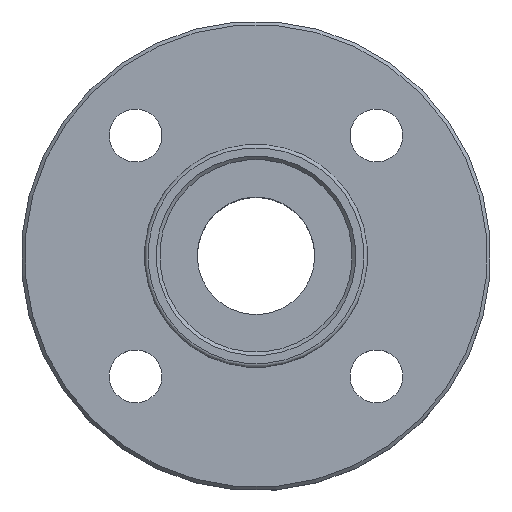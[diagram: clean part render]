
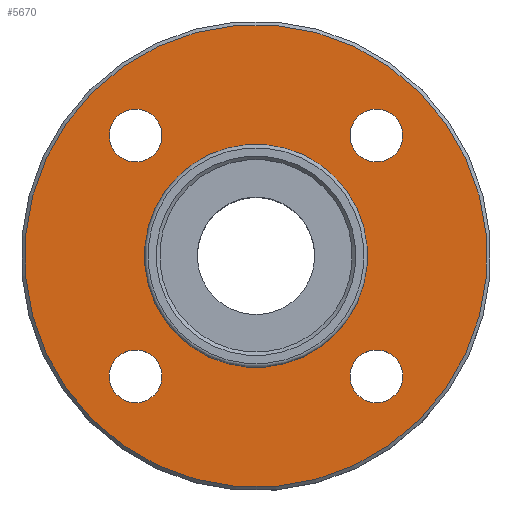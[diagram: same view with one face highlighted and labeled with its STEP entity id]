
A CAD part, top view. The second image highlights one B-rep face of the part: STEP entity #5670.
In plain terms, the highlighted planar face has unit normal (0, 0, 1).
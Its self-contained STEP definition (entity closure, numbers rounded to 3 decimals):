
#128=CIRCLE('',#6040,9.5);
#137=CIRCLE('',#6054,19.7);
#138=CIRCLE('',#6055,2.25);
#139=CIRCLE('',#6056,2.25);
#140=CIRCLE('',#6057,2.25);
#141=CIRCLE('',#6058,2.25);
#541=ORIENTED_EDGE('',*,*,#2162,.T.);
#542=ORIENTED_EDGE('',*,*,#2163,.F.);
#543=ORIENTED_EDGE('',*,*,#2164,.F.);
#544=ORIENTED_EDGE('',*,*,#2165,.F.);
#545=ORIENTED_EDGE('',*,*,#2166,.F.);
#546=ORIENTED_EDGE('',*,*,#2153,.T.);
#2153=EDGE_CURVE('',#2964,#2964,#128,.F.);
#2162=EDGE_CURVE('',#2973,#2973,#137,.T.);
#2163=EDGE_CURVE('',#2974,#2974,#138,.T.);
#2164=EDGE_CURVE('',#2975,#2975,#139,.T.);
#2165=EDGE_CURVE('',#2976,#2976,#140,.T.);
#2166=EDGE_CURVE('',#2977,#2977,#141,.T.);
#2964=VERTEX_POINT('',#8983);
#2973=VERTEX_POINT('',#9006);
#2974=VERTEX_POINT('',#9008);
#2975=VERTEX_POINT('',#9010);
#2976=VERTEX_POINT('',#9012);
#2977=VERTEX_POINT('',#9014);
#4618=EDGE_LOOP('',(#541));
#4619=EDGE_LOOP('',(#542));
#4620=EDGE_LOOP('',(#543));
#4621=EDGE_LOOP('',(#544));
#4622=EDGE_LOOP('',(#545));
#4623=EDGE_LOOP('',(#546));
#5045=FACE_BOUND('',#4618,.T.);
#5046=FACE_BOUND('',#4619,.T.);
#5047=FACE_BOUND('',#4620,.T.);
#5048=FACE_BOUND('',#4621,.T.);
#5049=FACE_BOUND('',#4622,.T.);
#5050=FACE_BOUND('',#4623,.T.);
#5411=PLANE('',#6053);
#5670=ADVANCED_FACE('',(#5045,#5046,#5047,#5048,#5049,#5050),#5411,.T.);
#6040=AXIS2_PLACEMENT_3D('',#8982,#6579,#6580);
#6053=AXIS2_PLACEMENT_3D('',#9004,#6605,#6606);
#6054=AXIS2_PLACEMENT_3D('',#9005,#6607,#6608);
#6055=AXIS2_PLACEMENT_3D('',#9007,#6609,#6610);
#6056=AXIS2_PLACEMENT_3D('',#9009,#6611,#6612);
#6057=AXIS2_PLACEMENT_3D('',#9011,#6613,#6614);
#6058=AXIS2_PLACEMENT_3D('',#9013,#6615,#6616);
#6579=DIRECTION('',(0.,0.,1.));
#6580=DIRECTION('',(0.707,-0.707,0.));
#6605=DIRECTION('',(0.,0.,1.));
#6606=DIRECTION('',(0.707,-0.707,0.));
#6607=DIRECTION('',(0.,0.,1.));
#6608=DIRECTION('',(0.707,-0.707,0.));
#6609=DIRECTION('',(0.,0.,1.));
#6610=DIRECTION('',(0.707,-0.707,0.));
#6611=DIRECTION('',(0.,0.,1.));
#6612=DIRECTION('',(0.707,-0.707,0.));
#6613=DIRECTION('',(0.,0.,1.));
#6614=DIRECTION('',(0.707,-0.707,0.));
#6615=DIRECTION('',(0.,0.,1.));
#6616=DIRECTION('',(0.707,-0.707,0.));
#8982=CARTESIAN_POINT('',(0.,0.,0.));
#8983=CARTESIAN_POINT('',(6.718,-6.718,0.));
#9004=CARTESIAN_POINT('',(0.,0.,0.));
#9005=CARTESIAN_POINT('',(0.,0.,0.));
#9006=CARTESIAN_POINT('',(13.93,-13.93,0.));
#9007=CARTESIAN_POINT('',(10.253,10.253,0.));
#9008=CARTESIAN_POINT('',(11.844,8.662,0.));
#9009=CARTESIAN_POINT('',(-10.253,10.253,0.));
#9010=CARTESIAN_POINT('',(-8.662,8.662,0.));
#9011=CARTESIAN_POINT('',(-10.253,-10.253,0.));
#9012=CARTESIAN_POINT('',(-8.662,-11.844,0.));
#9013=CARTESIAN_POINT('',(10.253,-10.253,0.));
#9014=CARTESIAN_POINT('',(11.844,-11.844,0.));
